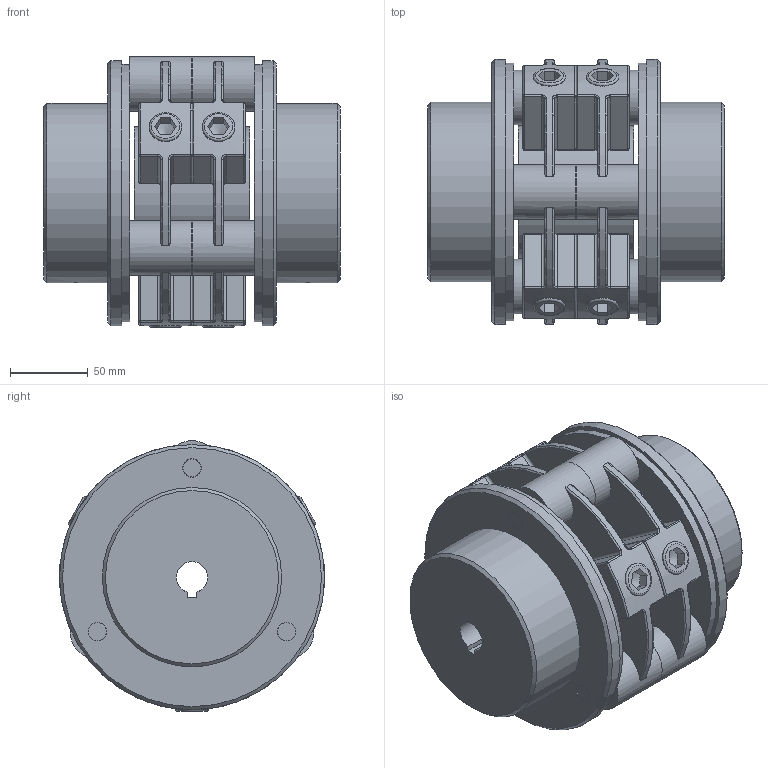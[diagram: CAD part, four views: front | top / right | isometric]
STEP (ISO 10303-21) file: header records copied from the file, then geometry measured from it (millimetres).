
FILE_DESCRIPTION(/* description */ (''),/* implementation_level */ '2;1');
FILE_NAME(/* name */ 'GX25-L80-20-PF-20-PF',/* time_stamp */ '2024-01-05T15:35:50+01:00',/* author */ ('M. Horlacher'),/* organization */ (''),/* preprocessor_version */ 'ST-DEVELOPER v20',/* originating_system */ 'Autodesk Inventor 2024',/* authorisation */ '');
FILE_SCHEMA (('AUTOMOTIVE_DESIGN { 1 0 10303 214 3 1 1 }'));
Length unit declared in the file: millimetre
Products named in the file (8): RP STEP; VE Rohr Dummy; GX25 Befestigungssatz ST; 080305-1413s; Größe 025; ISO 4762 - M14 x 40 - 8.8 - VZ A1A; GX25-Nabe; GX25-Nabe_1
Assembly tree (13 placements, depth 3):
  RP STEP
    VE Rohr Dummy
    GX25 Befestigungssatz ST  x2
      080305-1413s
      Größe 025
      ISO 4762 - M14 x 40 - 8.8 - VZ A1A
    GX25-Nabe
    GX25-Nabe_1
Bounding box: 190 x 170 x 173.5 mm (x, y, z)
Volume: 2406430.8 mm3; surface area: 423187.4 mm2
Topology: 19 solids, 19 shells, 602 faces, 1474 edges, 884 vertices
Faces by surface type: plane 206, cylinder 186, torus 84, sphere 48, bspline 48, cone 30
Full cylindrical faces by diameter (mm): 8.376 x2, 11.835 x12, 14 x24, 21 x24, 35 x6, 50 x2, 80 x3, 85 x3, 115 x2, 165 x2, 170 x2
Entity records: 8924 total; most frequent: CARTESIAN_POINT 2812, DIRECTION 1253, ORIENTED_EDGE 1176, EDGE_CURVE 588, AXIS2_PLACEMENT_3D 527, VERTEX_POINT 360, EDGE_LOOP 300, CIRCLE 278
